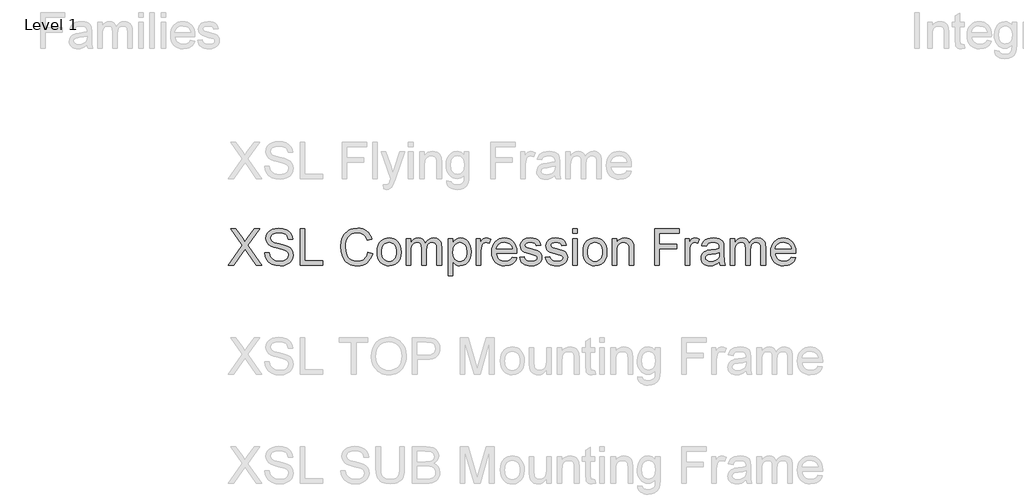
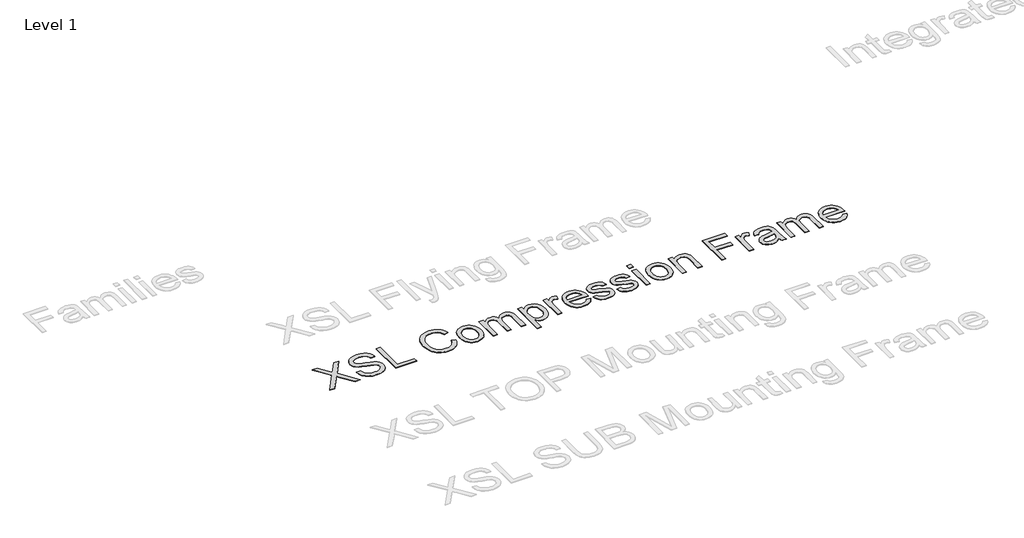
# One storey, part 15 of 52: 1 proxy.
"""IFC4 building model written with IfcOpenShell, lengths in millimetres."""

from ifc_helpers import new_model, si_unit, origin, origin_with_axes, place, context, project, spatial, polyline, outline, extrude, element, save

model = new_model("IFC4")

# Units and contexts
model_context = context("Model", 3, world=origin())
ifc_project = project(units=[si_unit("LENGTHUNIT", "METRE", prefix="MILLI")], contexts=[model_context])

# Site, building, storey
site = spatial("IfcSite", under=ifc_project)
building = spatial("IfcBuilding", under=site)
storey = spatial("IfcBuildingStorey", under=building, Name="Level 1", Elevation=0.0)

# Proxy
placement = place(None, origin())
element("IfcBuildingElementProxy", 1, Name="400mm Arial", ObjectType="400mm Arial", at=placement, inside=storey, context=model_context, shape_type="SweptSolid", body=[
    extrude(outline(polyline([(-18995.0211414, -63656.6859046), (-18840.118296, -63437.722541), (-18969.9070639, -63254.860664), (-18909.6725186, -63254.860664), (-18836.5866289, -63357.7695207), (-18811.9630606, -63397.8931837), (-18783.1211122, -63357.0828077), (-18710.8200374, -63254.860664), (-18649.7025753, -63254.860664), (-18779.4913432, -63438.3111522), (-18624.5884978, -63656.6859046), (-18684.8230431, -63656.6859046), (-18788.0262055, -63511.1027363), (-18809.510514, -63480.8873618), (-18833.1530636, -63514.0457923), (-18933.9036793, -63656.6859046), (-18995.0211414, -63656.6859046)])), origin_with_axes(), (0.0, 0.0, 1.0), 5.0),
    extrude(outline(polyline([(-18593.1959008, -63518.5584781), (-18542.9677458, -63518.5584781), (-18537.2042612, -63546.4316706), (-18526.780938, -63568.8356841), (-18510.5205538, -63586.6166472), (-18487.2458862, -63600.6206885), (-18458.7963453, -63609.7073738), (-18427.0113409, -63612.7362689), (-18399.0277838, -63610.4431378), (-18374.5268429, -63603.5637445), (-18354.6734779, -63592.6744374), (-18340.6326484, -63578.3515651), (-18332.2817271, -63561.9072399), (-18329.4980867, -63544.6535743), (-18331.5827513, -63527.8413671), (-18337.8367453, -63513.3100283), (-18350.5409368, -63500.9124051), (-18371.9761944, -63490.5013446), (-18445.1111351, -63471.3224299), (-18493.1197354, -63458.6305011), (-18523.837882, -63446.5517089), (-18548.841595, -63429.6536626), (-18566.5612444, -63409.1748982), (-18577.1194577, -63385.5568741), (-18580.6388621, -63359.2410487), (-18576.2855918, -63329.8227518), (-18563.225781, -63302.3910177), (-18541.8027861, -63279.1408756), (-18512.3599638, -63262.2673548), (-18477.0187668, -63252.0034471), (-18437.9006479, -63248.5821446), (-18395.5206421, -63252.1628627), (-18358.438137, -63262.9050169), (-18327.9775078, -63280.5878782), (-18305.4631297, -63304.9907172), (-18291.2138337, -63334.592955), (-18285.548451, -63367.8740129), (-18335.7766061, -63367.8740129), (-18344.9981814, -63337.903893), (-18353.3613655, -63326.04583), (-18364.226147, -63316.2724317), (-18394.2698433, -63303.1758327), (-18435.9386106, -63298.8102996), (-18478.5883966, -63303.1267817), (-18494.8917004, -63308.5223843), (-18507.847278, -63316.076228), (-18524.7698497, -63335.1325153), (-18530.410707, -63357.7695207), (-18526.413056, -63377.0710628), (-18514.4201029, -63392.595683), (-18486.0686638, -63406.4770969), (-18432.4069435, -63420.6528165), (-18377.0284405, -63434.1172975), (-18343.5266535, -63445.8649959), (-18314.8931715, -63464.0874173), (-18294.9171792, -63486.57727), (-18283.1817435, -63513.0892991), (-18279.2699316, -63543.37825), (-18283.7703547, -63574.3416513), (-18297.2716239, -63603.4656426), (-18319.2219163, -63628.5306692), (-18349.0694088, -63647.3171764), (-18384.9624288, -63659.0526121), (-18425.0493036, -63662.9644239), (-18474.2596518, -63658.7460437), (-18514.7634595, -63646.0909031), (-18547.0267105, -63624.9499511), (-18571.5153886, -63595.2741368), (-18587.2362125, -63559.1235994), (-18593.1959008, -63518.5584781)])), origin_with_axes(), (0.0, 0.0, 1.0), 5.0),
    extrude(outline(polyline([(-18203.927699, -63656.6859046), (-18203.927699, -63254.860664), (-18153.6995439, -63254.860664), (-18153.6995439, -63606.4577495), (-17952.7869236, -63606.4577495), (-17952.7869236, -63656.6859046), (-18203.927699, -63656.6859046)])), origin_with_axes(), (0.0, 0.0, 1.0), 5.0),
    extrude(outline(polyline([(-17456.7838923, -63513.8495886), (-17406.5557372, -63526.7990348), (-17416.4946824, -63558.0352819), (-17429.7323029, -63585.3290602), (-17446.2685986, -63608.6803699), (-17466.1035695, -63628.0892108), (-17488.7896259, -63643.3471165), (-17513.8791779, -63654.2456207), (-17541.3722257, -63660.7847231), (-17571.2687692, -63662.9644239), (-17601.898011, -63661.3150863), (-17629.5290145, -63656.3670735), (-17654.1617797, -63648.1203854), (-17675.7963067, -63636.5750222), (-17694.7299668, -63621.9026619), (-17711.2601311, -63604.274983), (-17725.3867997, -63583.6919853), (-17737.1099726, -63560.153669), (-17752.8921102, -63508.2823077), (-17758.1528227, -63452.7321264), (-17752.2053971, -63394.1407873), (-17744.7711152, -63367.843356), (-17734.3631204, -63343.5447503), (-17721.2144047, -63321.6465745), (-17705.5579601, -63302.5504333), (-17687.3937866, -63286.2563266), (-17666.7218842, -63272.7642544), (-17644.2442943, -63262.1845813), (-17620.6630584, -63254.627672), (-17570.1896487, -63248.5821446), (-17541.4611305, -63250.5380505), (-17515.117714, -63256.4057683), (-17491.159399, -63266.185298), (-17469.5861857, -63279.8766396), (-17450.7536932, -63297.1180425), (-17435.0175409, -63317.5477559), (-17422.3777287, -63341.16578), (-17412.8342566, -63367.9721147), (-17463.0624117, -63379.9405423), (-17480.4754928, -63343.3117583), (-17504.2651951, -63318.1854181), (-17534.7258243, -63303.6540793), (-17572.151686, -63298.8102996), (-17615.2919813, -63304.1813768), (-17633.9742553, -63310.8952232), (-17650.7312801, -63320.2946082), (-17677.623454, -63345.4577366), (-17695.1223742, -63377.978505), (-17704.7240943, -63414.7421791), (-17707.9246677, -63452.6340246), (-17704.1354831, -63499.0362069), (-17692.7679295, -63539.1598698), (-17673.392811, -63571.4721717), (-17645.5809322, -63594.440271), (-17612.2385607, -63608.1622694), (-17576.2719643, -63612.7362689), (-17554.4351022, -63611.1789018), (-17534.3456796, -63606.5068004), (-17516.0036965, -63598.7199649), (-17499.4091528, -63587.8183951), (-17484.9544561, -63573.851142), (-17473.0320137, -63556.8672565), (-17463.6418258, -63536.8667387), (-17456.7838923, -63513.8495886)])), origin_with_axes(), (0.0, 0.0, 1.0), 5.0),
    extrude(outline(polyline([(-17356.3275821, -63509.140699), (-17353.6113867, -63470.9238911), (-17345.4628005, -63437.9923212), (-17331.8818235, -63410.3459892), (-17312.8684558, -63387.9848953), (-17293.7263293, -63373.6926798), (-17272.59764, -63363.4839544), (-17249.482388, -63357.3587192), (-17224.3805732, -63355.3169741), (-17196.6698619, -63357.8032433), (-17171.6140323, -63365.2620507), (-17149.2130845, -63377.6933965), (-17129.4670184, -63395.0972805), (-17113.3507214, -63416.8850917), (-17101.8390806, -63442.4682188), (-17094.9320961, -63471.8466618), (-17092.629768, -63505.0204207), (-17096.7009954, -63555.7636105), (-17108.9146776, -63594.39122), (-17128.9151954, -63623.3190076), (-17156.3469295, -63644.9627316), (-17188.9290116, -63658.4640009), (-17224.3805732, -63662.9644239), (-17252.4959547, -63660.4873518), (-17277.7847762, -63653.0561355), (-17300.2470376, -63640.670775), (-17319.8827391, -63623.3312703), (-17335.8273579, -63601.331927), (-17347.2163714, -63574.9670507), (-17354.0497794, -63544.2366414), (-17356.3275821, -63509.140699)]), holes=[polyline([(-17306.0994271, -63509.0425972), (-17304.6462932, -63533.4055823), (-17300.2868915, -63554.500549), (-17293.0212221, -63572.3274974), (-17282.849285, -63586.8864273), (-17270.4761872, -63598.195733), (-17256.607036, -63606.2738085), (-17241.2418313, -63611.1206538), (-17224.3805732, -63612.7362689), (-17207.6051542, -63611.1114567), (-17192.3012632, -63606.2370203), (-17178.4689002, -63598.1129596), (-17166.1080652, -63586.7392745), (-17155.936128, -63572.0362575), (-17148.6704586, -63553.9242006), (-17144.3110569, -63532.4031039), (-17142.8579231, -63507.4729673), (-17144.320254, -63483.8825344), (-17148.7072468, -63463.3393906), (-17156.0189014, -63445.8435361), (-17166.255218, -63431.3949707), (-17178.6620382, -63420.085665), (-17192.4852042, -63412.0075896), (-17207.7247159, -63407.1607443), (-17224.3805732, -63405.5451292), (-17241.2418313, -63407.1546129), (-17256.607036, -63411.9830641), (-17270.4761872, -63420.0304827), (-17282.849285, -63431.2968688), (-17293.0212221, -63445.8128792), (-17300.2868915, -63463.6091708), (-17304.6462932, -63484.6857434), (-17306.0994271, -63509.0425972)])]), origin_with_axes(), (0.0, 0.0, 1.0), 5.0),
    extrude(outline(polyline([(-17036.1230935, -63656.6859046), (-17036.1230935, -63361.5954935), (-16985.8949385, -63361.5954935), (-16985.8949385, -63410.1559169), (-16970.7872512, -63387.8500052), (-16951.3630818, -63370.3756104), (-16928.284618, -63359.0816332), (-16902.2140473, -63355.3169741), (-16874.2795411, -63359.1552096), (-16851.8877903, -63370.669916), (-16835.1614223, -63389.100804), (-16824.2230643, -63413.687584), (-16805.9148037, -63388.1504422), (-16785.0313691, -63369.9096266), (-16761.5727605, -63358.9651372), (-16735.538978, -63355.3169741), (-16715.4311613, -63356.8344873), (-16697.7820226, -63361.387027), (-16682.5915618, -63368.9745932), (-16669.8597791, -63379.5971858), (-16659.7951409, -63393.3774322), (-16652.6061136, -63410.4379597), (-16648.2926972, -63430.7787684), (-16646.8548917, -63454.3998581), (-16646.8548917, -63656.6859046), (-16697.0830468, -63656.6859046), (-16697.0830468, -63475.9822685), (-16698.2480064, -63450.9295047), (-16701.7428854, -63434.0437211), (-16708.2911849, -63422.4799637), (-16718.6164062, -63413.3932784), (-16731.8969462, -63407.5071665), (-16747.3112018, -63405.5451292), (-16774.5222068, -63410.5728498), (-16796.7054911, -63425.6560116), (-16805.3108641, -63437.2259003), (-16811.4575591, -63451.8246842), (-16816.3749151, -63490.1089371), (-16816.3749151, -63656.6859046), (-16866.6030701, -63656.6859046), (-16866.6030701, -63470.3904622), (-16869.5093379, -63441.9899722), (-16878.2281412, -63421.731937), (-16893.5688204, -63409.5918311), (-16916.3407159, -63405.5451292), (-16935.6913088, -63408.2429305), (-16953.5213229, -63416.3363344), (-16968.2366027, -63429.6291371), (-16978.242993, -63447.925135), (-16983.9819521, -63473.3089927), (-16985.8949385, -63507.8653748), (-16985.8949385, -63656.6859046), (-17036.1230935, -63656.6859046)])), origin_with_axes(), (0.0, 0.0, 1.0), 5.0),
    extrude(outline(polyline([(-16571.5126591, -63769.6992535), (-16571.5126591, -63361.5954935), (-16521.284504, -63361.5954935), (-16521.284504, -63410.8426299), (-16504.9014925, -63386.5501555), (-16486.5564437, -63369.1983881), (-16465.170237, -63358.7873276), (-16439.663752, -63355.3169741), (-16405.6959811, -63360.1730164), (-16375.9956414, -63374.7411435), (-16351.8135316, -63398.1384383), (-16334.4004505, -63429.4819843), (-16323.8790254, -63466.4909131), (-16320.3718837, -63506.8843561), (-16324.3327465, -63549.8407104), (-16336.215335, -63588.2598535), (-16355.6395043, -63620.1920106), (-16382.2251098, -63643.6874074), (-16413.1885111, -63658.1451698), (-16445.7460677, -63662.9644239), (-16468.8367942, -63659.7393251), (-16489.4504487, -63650.0640286), (-16507.0965217, -63635.4591134), (-16521.284504, -63617.4451584), (-16521.284504, -63769.6992535), (-16571.5126591, -63769.6992535)]), holes=[polyline([(-16521.284504, -63511.4951438), (-16515.8521132, -63556.5239), (-16509.0616247, -63573.9615066), (-16499.5549408, -63588.0145988), (-16475.5077211, -63606.5558513), (-16461.7458688, -63611.1911645), (-16446.8251882, -63612.7362689), (-16431.6899098, -63611.1359822), (-16417.6766714, -63606.3351222), (-16404.7854732, -63598.3336888), (-16393.016315, -63587.131682), (-16383.2091942, -63572.5696864), (-16376.2041078, -63554.4882863), (-16372.001056, -63532.8874818), (-16370.6000388, -63507.7672729), (-16376.0692178, -63462.9837714), (-16382.9056915, -63445.4112747), (-16392.4767548, -63431.0516142), (-16416.4871863, -63411.9217504), (-16430.0926888, -63407.1392845), (-16444.765049, -63405.5451292), (-16459.391424, -63407.240452), (-16473.1532763, -63412.3264206), (-16498.0834128, -63432.670295), (-16508.2338902, -63447.7687852), (-16515.4842312, -63465.9390901), (-16519.8344358, -63487.1812096), (-16521.284504, -63511.4951438)])]), origin_with_axes(), (0.0, 0.0, 1.0), 5.0),
    extrude(outline(polyline([(-16263.8652093, -63656.6859046), (-16263.8652093, -63361.5954935), (-16219.9155736, -63361.5954935), (-16219.9155736, -63405.2508236), (-16203.6797148, -63379.9405423), (-16188.7191804, -63365.0290588), (-16173.709595, -63357.7449953), (-16157.3265834, -63355.3169741), (-16132.3106078, -63359.1919978), (-16106.9022246, -63370.8170688), (-16123.6776436, -63415.845825), (-16141.3359794, -63408.1203031), (-16158.9943152, -63405.5451292), (-16173.9916378, -63408.0222013), (-16187.3948052, -63415.4534176), (-16198.2227986, -63427.2746924), (-16205.4945993, -63442.9219399), (-16211.6014405, -63470.9790734), (-16213.6370542, -63501.5868554), (-16213.6370542, -63656.6859046), (-16263.8652093, -63656.6859046)])), origin_with_axes(), (0.0, 0.0, 1.0), 5.0),
    extrude(outline(polyline([(-15868.9070992, -63568.7866332), (-15819.6599628, -63575.0651526), (-15827.2107408, -63594.7897589), (-15837.4041377, -63612.1721831), (-15850.2401537, -63627.2124254), (-15865.7187886, -63639.9104856), (-15883.680627, -63649.9965836), (-15903.9662534, -63657.2009394), (-15951.5088699, -63662.9644239), (-15982.6746062, -63660.4781548), (-16010.4435655, -63653.0193473), (-16034.8157477, -63640.5880016), (-16055.7911528, -63623.1841175), (-16072.6585423, -63601.2920731), (-16084.7066776, -63575.3962464), (-16091.9355588, -63545.4966372), (-16094.3451859, -63511.5932457), (-16091.9110333, -63476.5402229), (-16084.6085757, -63445.6442667), (-16072.4378131, -63418.905377), (-16055.3987453, -63396.3235538), (-16034.4785225, -63378.3831752), (-16010.6642947, -63365.568619), (-15983.9560619, -63357.8798853), (-15954.353824, -63355.3169741), (-15925.7050136, -63357.873754), (-15899.7969241, -63365.5440936), (-15876.6295554, -63378.3279929), (-15856.2029077, -63396.225452), (-15839.5286562, -63418.7582242), (-15827.6184766, -63445.4480629), (-15820.4723689, -63476.2949682), (-15818.090333, -63511.2989401), (-15818.3846386, -63524.8369975), (-16044.1170308, -63524.8369975), (-16041.2076974, -63544.8804349), (-16035.422753, -63562.4345374), (-16026.7621977, -63577.4993051), (-16015.2260314, -63590.074738), (-16001.4519164, -63599.9891577), (-15986.0775147, -63607.0708861), (-15950.5278512, -63612.7362689), (-15923.7950929, -63610.112044), (-15901.2807148, -63602.2393693), (-15882.9847169, -63588.6277354), (-15868.9070992, -63568.7866332)]), holes=[polyline([(-16044.1170308, -63474.6088424), (-15868.318488, -63474.6088424), (-15875.1120422, -63448.0722878), (-15888.4293704, -63429.0895769), (-15902.1268434, -63418.788881), (-15917.7127773, -63411.4312411), (-15935.187172, -63407.0166572), (-15954.5500277, -63405.5451292), (-15988.407434, -63410.241756), (-16016.4032538, -63424.3316364), (-16035.8642114, -63446.2941915), (-16044.1170308, -63474.6088424)])]), origin_with_axes(), (0.0, 0.0, 1.0), 5.0),
    extrude(outline(polyline([(-15786.697736, -63568.7866332), (-15736.469581, -63562.5081138), (-15728.5478553, -63583.9924223), (-15713.2194389, -63599.7868226), (-15690.3862297, -63609.4989073), (-15659.950126, -63612.7362689), (-15629.8819042, -63609.7686874), (-15608.7409522, -63600.8659432), (-15596.2329644, -63587.9655479), (-15592.0636351, -63573.0050134), (-15596.2574899, -63560.20272), (-15608.8390541, -63550.4415843), (-15660.5387372, -63536.118712), (-15736.1752754, -63511.5441947), (-15755.3174019, -63499.1956224), (-15769.1865531, -63482.8493991), (-15777.6110508, -63463.5478571), (-15780.4192167, -63442.3333287), (-15778.1628738, -63422.8723712), (-15771.393845, -63404.9074671), (-15760.7252672, -63389.1498549), (-15746.7702768, -63376.3107733), (-15714.8381196, -63361.4483407), (-15693.9546851, -63356.8498158), (-15671.6242479, -63355.3169741), (-15638.9318013, -63357.7817835), (-15610.5067858, -63365.1762116), (-15587.6490512, -63376.7767572), (-15571.6584471, -63391.859919), (-15561.0634457, -63411.5416057), (-15554.3925188, -63436.9377261), (-15604.6206739, -63443.2162455), (-15610.9605069, -63427.4095824), (-15623.505283, -63415.5024685), (-15642.3776293, -63408.034464), (-15667.7001733, -63405.5451292), (-15696.5421218, -63407.9240994), (-15715.7700874, -63415.0610101), (-15726.585818, -63425.361706), (-15730.1910616, -63437.2320317), (-15724.2068478, -63451.8492096), (-15705.4693915, -63462.9347204), (-15662.2064689, -63473.6278238), (-15588.482917, -63497.2703733), (-15569.0096968, -63508.5766133), (-15554.245366, -63524.0521826), (-15544.9379515, -63543.746132), (-15541.8354801, -63567.7075127), (-15545.4775118, -63592.4782337), (-15556.4036071, -63615.7774267), (-15574.1968329, -63635.7779445), (-15598.4402564, -63650.6526398), (-15627.7236632, -63659.8864779), (-15660.636839, -63662.9644239), (-15687.6700343, -63661.4806332), (-15711.281927, -63657.0292611), (-15731.4725172, -63649.6103075), (-15748.2418048, -63639.2237725), (-15761.9392778, -63625.918707), (-15772.914424, -63609.744162), (-15781.1672434, -63590.7001374), (-15786.697736, -63568.7866332)])), origin_with_axes(), (0.0, 0.0, 1.0), 5.0),
    extrude(outline(polyline([(-15504.1643637, -63568.7866332), (-15453.9362087, -63562.5081138), (-15446.014483, -63583.9924223), (-15430.6860666, -63599.7868226), (-15407.8528574, -63609.4989073), (-15377.4167537, -63612.7362689), (-15347.3485319, -63609.7686874), (-15326.2075799, -63600.8659432), (-15313.6995921, -63587.9655479), (-15309.5302628, -63573.0050134), (-15313.7241176, -63560.20272), (-15326.3056818, -63550.4415843), (-15378.0053649, -63536.118712), (-15453.6419031, -63511.5441947), (-15472.7840296, -63499.1956224), (-15486.6531808, -63482.8493991), (-15495.0776785, -63463.5478571), (-15497.8858444, -63442.3333287), (-15495.6295015, -63422.8723712), (-15488.8604727, -63404.9074671), (-15478.1918949, -63389.1498549), (-15464.2369045, -63376.3107733), (-15432.3047474, -63361.4483407), (-15411.4213128, -63356.8498158), (-15389.0908757, -63355.3169741), (-15356.398429, -63357.7817835), (-15327.9734135, -63365.1762116), (-15305.1156789, -63376.7767572), (-15289.1250748, -63391.859919), (-15278.5300734, -63411.5416057), (-15271.8591465, -63436.9377261), (-15322.0873016, -63443.2162455), (-15328.4271346, -63427.4095824), (-15340.9719107, -63415.5024685), (-15359.844257, -63408.034464), (-15385.166801, -63405.5451292), (-15414.0087495, -63407.9240994), (-15433.2367151, -63415.0610101), (-15444.0524457, -63425.361706), (-15447.6576893, -63437.2320317), (-15441.6734755, -63451.8492096), (-15422.9360192, -63462.9347204), (-15379.6730966, -63473.6278238), (-15305.9495447, -63497.2703733), (-15286.4763245, -63508.5766133), (-15271.7119937, -63524.0521826), (-15262.4045792, -63543.746132), (-15259.3021078, -63567.7075127), (-15262.9441395, -63592.4782337), (-15273.8702348, -63615.7774267), (-15291.6634606, -63635.7779445), (-15315.9068841, -63650.6526398), (-15345.1902909, -63659.8864779), (-15378.1034667, -63662.9644239), (-15405.136662, -63661.4806332), (-15428.7485547, -63657.0292611), (-15448.9391449, -63649.6103075), (-15465.7084325, -63639.2237725), (-15479.4059055, -63625.918707), (-15490.3810517, -63609.744162), (-15498.6338711, -63590.7001374), (-15504.1643637, -63568.7866332)])), origin_with_axes(), (0.0, 0.0, 1.0), 5.0),
    extrude(outline(polyline([(-15202.7954333, -63305.088819), (-15202.7954333, -63254.860664), (-15152.5672782, -63254.860664), (-15152.5672782, -63305.088819), (-15202.7954333, -63305.088819)])), origin_with_axes(), (0.0, 0.0, 1.0), 5.0),
    extrude(outline(polyline([(-15202.7954333, -63656.6859046), (-15202.7954333, -63361.5954935), (-15152.5672782, -63361.5954935), (-15152.5672782, -63656.6859046), (-15202.7954333, -63656.6859046)])), origin_with_axes(), (0.0, 0.0, 1.0), 5.0),
    extrude(outline(polyline([(-15089.7820844, -63509.140699), (-15087.065889, -63470.9238911), (-15078.9173028, -63437.9923212), (-15065.3363258, -63410.3459892), (-15046.322958, -63387.9848953), (-15027.1808315, -63373.6926798), (-15006.0521423, -63363.4839544), (-14982.9368902, -63357.3587192), (-14957.8350754, -63355.3169741), (-14930.1243642, -63357.8032433), (-14905.0685346, -63365.2620507), (-14882.6675868, -63377.6933965), (-14862.9215207, -63395.0972805), (-14846.8052236, -63416.8850917), (-14835.2935828, -63442.4682188), (-14828.3865984, -63471.8466618), (-14826.0842702, -63505.0204207), (-14830.1554976, -63555.7636105), (-14842.3691799, -63594.39122), (-14862.3696977, -63623.3190076), (-14889.8014318, -63644.9627316), (-14922.3835138, -63658.4640009), (-14957.8350754, -63662.9644239), (-14985.9504569, -63660.4873518), (-15011.2392784, -63653.0561355), (-15033.7015399, -63640.670775), (-15053.3372414, -63623.3312703), (-15069.2818602, -63601.331927), (-15080.6708736, -63574.9670507), (-15087.5042817, -63544.2366414), (-15089.7820844, -63509.140699)]), holes=[polyline([(-15039.5539293, -63509.0425972), (-15038.1007954, -63533.4055823), (-15033.7413938, -63554.500549), (-15026.4757244, -63572.3274974), (-15016.3037872, -63586.8864273), (-15003.9306894, -63598.195733), (-14990.0615382, -63606.2738085), (-14974.6963336, -63611.1206538), (-14957.8350754, -63612.7362689), (-14941.0596565, -63611.1114567), (-14925.7557655, -63606.2370203), (-14911.9234024, -63598.1129596), (-14899.5625674, -63586.7392745), (-14889.3906302, -63572.0362575), (-14882.1249608, -63553.9242006), (-14877.7655592, -63532.4031039), (-14876.3124253, -63507.4729673), (-14877.7747562, -63483.8825344), (-14882.161749, -63463.3393906), (-14889.4734037, -63445.8435361), (-14899.7097202, -63431.3949707), (-14912.1165405, -63420.085665), (-14925.9397065, -63412.0075896), (-14941.1792181, -63407.1607443), (-14957.8350754, -63405.5451292), (-14974.6963336, -63407.1546129), (-14990.0615382, -63411.9830641), (-15003.9306894, -63420.0304827), (-15016.3037872, -63431.2968688), (-15026.4757244, -63445.8128792), (-15033.7413938, -63463.6091708), (-15038.1007954, -63484.6857434), (-15039.5539293, -63509.0425972)])]), origin_with_axes(), (0.0, 0.0, 1.0), 5.0),
    extrude(outline(polyline([(-14769.5775958, -63656.6859046), (-14769.5775958, -63361.5954935), (-14719.3494407, -63361.5954935), (-14719.3494407, -63402.798277), (-14701.8995714, -63382.025207), (-14680.9425604, -63367.1872998), (-14656.4784077, -63358.2845555), (-14628.5071134, -63355.3169741), (-14603.7486551, -63357.7082071), (-14581.0748614, -63364.881906), (-14562.1657269, -63375.9428913), (-14548.7012459, -63389.9959835), (-14539.5655097, -63407.0043944), (-14533.6426095, -63426.9313358), (-14530.9938592, -63475.4917592), (-14530.9938592, -63656.6859046), (-14581.2220142, -63656.6859046), (-14581.2220142, -63482.2607879), (-14582.6690168, -63456.2883191), (-14587.0100243, -63437.8206429), (-14595.0175891, -63424.5891538), (-14607.4642632, -63414.3252461), (-14623.4180791, -63407.7401584), (-14641.9470689, -63405.5451292), (-14671.3653658, -63410.4747479), (-14696.4426551, -63425.2636041), (-14706.4643738, -63437.3362649), (-14713.6227443, -63453.8357724), (-14717.9177666, -63474.7621266), (-14719.3494407, -63500.1153274), (-14719.3494407, -63656.6859046), (-14769.5775958, -63656.6859046)])), origin_with_axes(), (0.0, 0.0, 1.0), 5.0),
    extrude(outline(polyline([(-14298.6886419, -63656.6859046), (-14298.6886419, -63254.860664), (-14028.7123084, -63254.860664), (-14028.7123084, -63305.088819), (-14248.4604869, -63305.088819), (-14248.4604869, -63424.3806873), (-14060.1049053, -63424.3806873), (-14060.1049053, -63474.6088424), (-14248.4604869, -63474.6088424), (-14248.4604869, -63656.6859046), (-14298.6886419, -63656.6859046)])), origin_with_axes(), (0.0, 0.0, 1.0), 5.0),
    extrude(outline(polyline([(-13965.9271146, -63656.6859046), (-13965.9271146, -63361.5954935), (-13921.9774789, -63361.5954935), (-13921.9774789, -63405.2508236), (-13905.7416202, -63379.9405423), (-13890.7810857, -63365.0290588), (-13875.7715003, -63357.7449953), (-13859.3884888, -63355.3169741), (-13834.3725131, -63359.1919978), (-13808.96413, -63370.8170688), (-13825.739549, -63415.845825), (-13843.3978847, -63408.1203031), (-13861.0562205, -63405.5451292), (-13876.0535432, -63408.0222013), (-13889.4567105, -63415.4534176), (-13900.2847039, -63427.2746924), (-13907.5565047, -63442.9219399), (-13913.6633458, -63470.9790734), (-13915.6989595, -63501.5868554), (-13915.6989595, -63656.6859046), (-13965.9271146, -63656.6859046)])), origin_with_axes(), (0.0, 0.0, 1.0), 5.0),
    extrude(outline(polyline([(-13589.2159515, -63619.0147883), (-13613.2141203, -63639.5916545), (-13637.9235277, -63653.0561355), (-13663.9082593, -63660.4873518), (-13691.7324008, -63662.9644239), (-13714.0965605, -63661.4745019), (-13733.7077365, -63657.0047356), (-13750.5659289, -63649.5551252), (-13764.6711378, -63639.1256707), (-13775.8087652, -63626.3785595), (-13783.7642133, -63611.9759794), (-13788.5374822, -63595.9179303), (-13790.1285718, -63578.2044123), (-13787.7250761, -63557.3822913), (-13780.514589, -63538.4731568), (-13769.39229, -63522.286349), (-13755.2533587, -63509.6312084), (-13738.6373552, -63500.0662765), (-13720.0838399, -63493.150095), (-13676.6247136, -63485.5962513), (-13625.268387, -63477.6500002), (-13589.5102571, -63468.330323), (-13589.2159515, -63457.1467104), (-13592.6740423, -63434.7304341), (-13603.0483145, -63420.0642053), (-13626.2494057, -63409.1748982), (-13658.5739703, -63405.5451292), (-13688.4950393, -63407.9608876), (-13709.3907366, -63415.2081629), (-13723.6400326, -63428.6113303), (-13733.6218974, -63449.4947649), (-13783.8500524, -63443.2162455), (-13775.1312491, -63415.7477232), (-13762.1204893, -63394.1653128), (-13743.6037622, -63377.6596739), (-13718.3670573, -63365.4214662), (-13687.5017579, -63357.8430971), (-13652.0992472, -63355.3169741), (-13618.1437391, -63357.5487915), (-13591.2270398, -63364.2442439), (-13570.9322164, -63374.3119478), (-13556.8423359, -63386.6605201), (-13547.4981333, -63401.9276229), (-13541.4403431, -63420.7509183), (-13538.9877964, -63464.700554), (-13538.9877964, -63527.1914423), (-13536.4371479, -63614.4530515), (-13526.4307577, -63656.6859046), (-13576.6589127, -63656.6859046), (-13584.7032657, -63639.2237725), (-13589.2159515, -63619.0147883)]), holes=[polyline([(-13589.2159515, -63518.5584781), (-13622.9629932, -63526.9216621), (-13670.2480923, -63533.960471), (-13713.461964, -63542.1029258), (-13724.7068903, -63547.6702067), (-13733.0332862, -63555.3466776), (-13738.1836341, -63564.5437275), (-13739.9004167, -63574.6727451), (-13736.1602831, -63589.6087541), (-13724.9398823, -63601.8469618), (-13706.4844688, -63610.0139421), (-13681.0392975, -63612.7362689), (-13654.0612845, -63609.7318992), (-13630.2225312, -63600.7187904), (-13610.8964638, -63587.4382503), (-13597.4565082, -63571.6315873), (-13591.4968199, -63555.3466776), (-13589.5102571, -63532.7832486), (-13589.2159515, -63518.5584781)])]), origin_with_axes(), (0.0, 0.0, 1.0), 5.0),
    extrude(outline(polyline([(-13469.9240832, -63656.6859046), (-13469.9240832, -63361.5954935), (-13419.6959281, -63361.5954935), (-13419.6959281, -63410.1559169), (-13404.5882409, -63387.8500052), (-13385.1640715, -63370.3756104), (-13362.0856077, -63359.0816332), (-13336.015037, -63355.3169741), (-13308.0805308, -63359.1552096), (-13285.68878, -63370.669916), (-13268.962412, -63389.100804), (-13258.024054, -63413.687584), (-13239.7157934, -63388.1504422), (-13218.8323588, -63369.9096266), (-13195.3737502, -63358.9651372), (-13169.3399677, -63355.3169741), (-13149.232151, -63356.8344873), (-13131.5830123, -63361.387027), (-13116.3925515, -63368.9745932), (-13103.6607688, -63379.5971858), (-13093.5961306, -63393.3774322), (-13086.4071032, -63410.4379597), (-13082.0936868, -63430.7787684), (-13080.6558814, -63454.3998581), (-13080.6558814, -63656.6859046), (-13130.8840365, -63656.6859046), (-13130.8840365, -63475.9822685), (-13132.0489961, -63450.9295047), (-13135.5438751, -63434.0437211), (-13142.0921746, -63422.4799637), (-13152.4173959, -63413.3932784), (-13165.6979359, -63407.5071665), (-13181.1121915, -63405.5451292), (-13208.3231964, -63410.5728498), (-13230.5064808, -63425.6560116), (-13239.1118538, -63437.2259003), (-13245.2585488, -63451.8246842), (-13250.1759048, -63490.1089371), (-13250.1759048, -63656.6859046), (-13300.4040598, -63656.6859046), (-13300.4040598, -63470.3904622), (-13303.3103276, -63441.9899722), (-13312.0291309, -63421.731937), (-13327.3698101, -63409.5918311), (-13350.1417056, -63405.5451292), (-13369.4922985, -63408.2429305), (-13387.3223126, -63416.3363344), (-13402.0375924, -63429.6291371), (-13412.0439826, -63447.925135), (-13417.7829418, -63473.3089927), (-13419.6959281, -63507.8653748), (-13419.6959281, -63656.6859046), (-13469.9240832, -63656.6859046)])), origin_with_axes(), (0.0, 0.0, 1.0), 5.0),
    extrude(outline(polyline([(-12798.7111203, -63568.7866332), (-12749.4639839, -63575.0651526), (-12757.0147618, -63594.7897589), (-12767.2081588, -63612.1721831), (-12780.0441747, -63627.2124254), (-12795.5228097, -63639.9104856), (-12813.4846481, -63649.9965836), (-12833.7702744, -63657.2009394), (-12881.3128909, -63662.9644239), (-12912.4786273, -63660.4781548), (-12940.2475866, -63653.0193473), (-12964.6197687, -63640.5880016), (-12985.5951738, -63623.1841175), (-13002.4625633, -63601.2920731), (-13014.5106987, -63575.3962464), (-13021.7395799, -63545.4966372), (-13024.1492069, -63511.5932457), (-13021.7150544, -63476.5402229), (-13014.4125968, -63445.6442667), (-13002.2418341, -63418.905377), (-12985.2027664, -63396.3235538), (-12964.2825436, -63378.3831752), (-12940.4683158, -63365.568619), (-12913.7600829, -63357.8798853), (-12884.157845, -63355.3169741), (-12855.5090347, -63357.873754), (-12829.6009451, -63365.5440936), (-12806.4335765, -63378.3279929), (-12786.0069287, -63396.225452), (-12769.3326773, -63418.7582242), (-12757.4224977, -63445.4480629), (-12750.2763899, -63476.2949682), (-12747.894354, -63511.2989401), (-12748.1886596, -63524.8369975), (-12973.9210519, -63524.8369975), (-12971.0117184, -63544.8804349), (-12965.226774, -63562.4345374), (-12956.5662187, -63577.4993051), (-12945.0300525, -63590.074738), (-12931.2559375, -63599.9891577), (-12915.8815357, -63607.0708861), (-12880.3318723, -63612.7362689), (-12853.599114, -63610.112044), (-12831.0847359, -63602.2393693), (-12812.788738, -63588.6277354), (-12798.7111203, -63568.7866332)]), holes=[polyline([(-12973.9210519, -63474.6088424), (-12798.1225091, -63474.6088424), (-12804.9160633, -63448.0722878), (-12818.2333915, -63429.0895769), (-12831.9308644, -63418.788881), (-12847.5167983, -63411.4312411), (-12864.9911931, -63407.0166572), (-12884.3540488, -63405.5451292), (-12918.211455, -63410.241756), (-12946.2072749, -63424.3316364), (-12965.6682324, -63446.2941915), (-12973.9210519, -63474.6088424)])]), origin_with_axes(), (0.0, 0.0, 1.0), 5.0),
])

save(model, "model.ifc")
